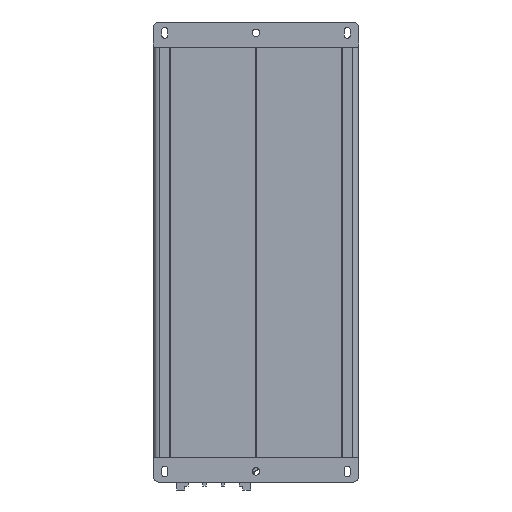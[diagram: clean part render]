
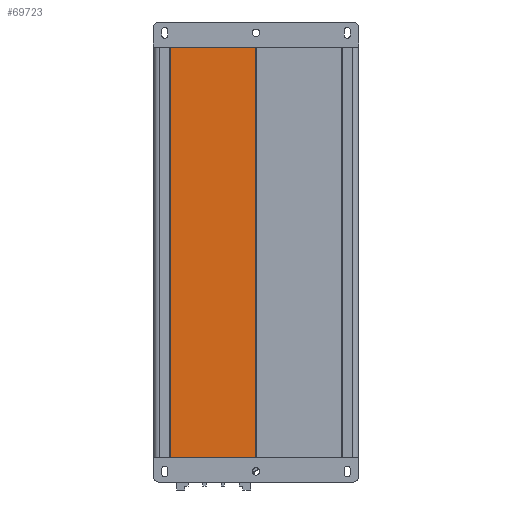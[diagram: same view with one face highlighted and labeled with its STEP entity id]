
A CAD part, front view. The second image highlights one B-rep face of the part: STEP entity #69723.
In plain terms, the highlighted planar face has unit normal (0, -1, 0).
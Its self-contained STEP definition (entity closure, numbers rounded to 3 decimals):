
#6597=FACE_OUTER_BOUND('',#10514,.T.);
#10514=EDGE_LOOP('',(#56540,#56541,#56542,#56543));
#16980=LINE('',#115169,#23795);
#16982=LINE('',#115173,#23797);
#16983=LINE('',#115175,#23798);
#16984=LINE('',#115176,#23799);
#23795=VECTOR('',#91485,0.394);
#23797=VECTOR('',#91489,0.394);
#23798=VECTOR('',#91490,0.394);
#23799=VECTOR('',#91491,0.394);
#31384=VERTEX_POINT('',#115166);
#31385=VERTEX_POINT('',#115168);
#31386=VERTEX_POINT('',#115172);
#31387=VERTEX_POINT('',#115174);
#40163=EDGE_CURVE('',#31384,#31385,#16980,.T.);
#40165=EDGE_CURVE('',#31384,#31386,#16982,.T.);
#40166=EDGE_CURVE('',#31386,#31387,#16983,.T.);
#40167=EDGE_CURVE('',#31385,#31387,#16984,.T.);
#56540=ORIENTED_EDGE('',*,*,#40165,.T.);
#56541=ORIENTED_EDGE('',*,*,#40166,.T.);
#56542=ORIENTED_EDGE('',*,*,#40167,.F.);
#56543=ORIENTED_EDGE('',*,*,#40163,.F.);
#64083=PLANE('',#75479);
#69723=ADVANCED_FACE('',(#6597),#64083,.T.);
#75479=AXIS2_PLACEMENT_3D('',#115171,#91487,#91488);
#91485=DIRECTION('',(0.,0.,1.));
#91487=DIRECTION('center_axis',(0.,-1.,0.));
#91488=DIRECTION('ref_axis',(1.,0.,0.));
#91489=DIRECTION('',(1.,0.,0.));
#91490=DIRECTION('',(0.,0.,1.));
#91491=DIRECTION('',(1.,0.,0.));
#115166=CARTESIAN_POINT('',(-2.901,-1.724,-7.087));
#115168=CARTESIAN_POINT('',(-2.901,-1.724,7.087));
#115169=CARTESIAN_POINT('',(-2.901,-1.724,-7.087));
#115171=CARTESIAN_POINT('Origin',(-2.901,-1.724,-7.087));
#115172=CARTESIAN_POINT('',(0.059,-1.724,-7.087));
#115173=CARTESIAN_POINT('',(-2.901,-1.724,-7.087));
#115174=CARTESIAN_POINT('',(0.059,-1.724,7.087));
#115175=CARTESIAN_POINT('',(0.059,-1.724,-7.087));
#115176=CARTESIAN_POINT('',(-2.901,-1.724,7.087));
